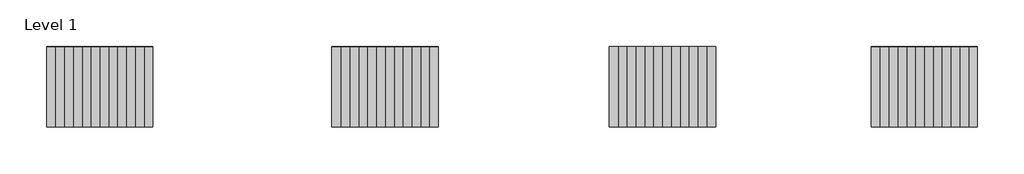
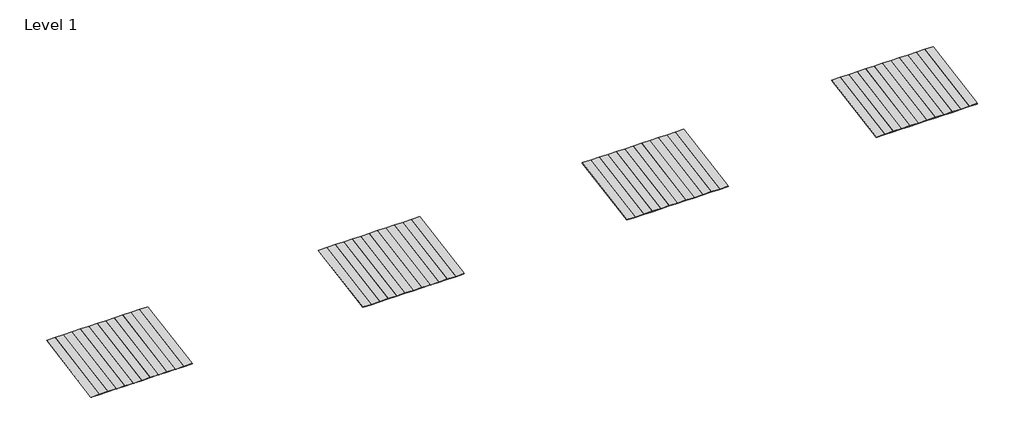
# One storey: 48 plates.
"""IFC4 building model written with IfcOpenShell, lengths in millimetres."""

from ifc_helpers import new_model, si_unit, origin, place, context, project, spatial, transform, mapped, element, save
from components import system_panel_feab0dc7, system_panel_77eb090d, system_panel_bf3a755d, system_panel_ab85e6cc

model = new_model("IFC4")

# Units and contexts
model_context = context("Model", 3, world=origin())
ifc_project = project(units=[si_unit("LENGTHUNIT", "METRE", prefix="MILLI")], contexts=[model_context])

# Site, building, storey
site = spatial("IfcSite", under=ifc_project)
building = spatial("IfcBuilding", under=site)
storey = spatial("IfcBuildingStorey", under=building, Name="Level 1", Elevation=4000.0)

# Plates
placement = place(None, origin())
system_panel_shape = system_panel_feab0dc7(model_context)
element("IfcPlate", 1, ObjectType="System Panel : MetecnoSpan_40mm_Vertical_Plain_Surfmist", at=placement, inside=storey, context=model_context, shape_type="MappedRepresentation", body=[
    mapped(system_panel_shape, transform((-20530.7129304, -3930.7641433, 0.0), x_axis=(1.0, 0.0, 0.0), y_axis=(0.0, 0.17364817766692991, -0.9848077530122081), z_axis=(0.0, 0.9848077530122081, 0.17364817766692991))),
])
element("IfcPlate", 2, ObjectType="System Panel : MetecnoSpan_40mm_Vertical_Plain_Surfmist", at=placement, inside=storey, context=model_context, shape_type="MappedRepresentation", body=[
    mapped(system_panel_shape, transform((-19530.7129304, -3930.7641433, 0.0), x_axis=(1.0, 0.0, 0.0), y_axis=(0.0, 0.17364817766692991, -0.9848077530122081), z_axis=(0.0, 0.9848077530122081, 0.17364817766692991))),
])
element("IfcPlate", 3, ObjectType="System Panel : MetecnoSpan_40mm_Vertical_Plain_Surfmist", at=placement, inside=storey, context=model_context, shape_type="MappedRepresentation", body=[
    mapped(system_panel_shape, transform((-18530.7129304, -3930.7641433, 0.0), x_axis=(1.0, 0.0, 0.0), y_axis=(0.0, 0.17364817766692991, -0.9848077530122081), z_axis=(0.0, 0.9848077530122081, 0.17364817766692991))),
])
element("IfcPlate", 4, ObjectType="System Panel : MetecnoSpan_40mm_Vertical_Plain_Surfmist", at=placement, inside=storey, context=model_context, shape_type="MappedRepresentation", body=[
    mapped(system_panel_shape, transform((-17530.7129304, -3930.7641433, 0.0), x_axis=(1.0, 0.0, 0.0), y_axis=(0.0, 0.17364817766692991, -0.9848077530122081), z_axis=(0.0, 0.9848077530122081, 0.17364817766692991))),
])
element("IfcPlate", 5, ObjectType="System Panel : MetecnoSpan_40mm_Vertical_Plain_Surfmist", at=placement, inside=storey, context=model_context, shape_type="MappedRepresentation", body=[
    mapped(system_panel_shape, transform((-16530.7129304, -3930.7641433, 0.0), x_axis=(1.0, 0.0, 0.0), y_axis=(0.0, 0.17364817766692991, -0.9848077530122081), z_axis=(0.0, 0.9848077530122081, 0.17364817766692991))),
])
element("IfcPlate", 6, ObjectType="System Panel : MetecnoSpan_40mm_Vertical_Plain_Surfmist", at=placement, inside=storey, context=model_context, shape_type="MappedRepresentation", body=[
    mapped(system_panel_shape, transform((-15530.7129304, -3930.7641433, 0.0), x_axis=(1.0, 0.0, 0.0), y_axis=(0.0, 0.17364817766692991, -0.9848077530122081), z_axis=(0.0, 0.9848077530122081, 0.17364817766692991))),
])
element("IfcPlate", 7, ObjectType="System Panel : MetecnoSpan_40mm_Vertical_Plain_Surfmist", at=placement, inside=storey, context=model_context, shape_type="MappedRepresentation", body=[
    mapped(system_panel_shape, transform((-14530.7129304, -3930.7641433, 0.0), x_axis=(1.0, 0.0, 0.0), y_axis=(0.0, 0.17364817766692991, -0.9848077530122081), z_axis=(0.0, 0.9848077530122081, 0.17364817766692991))),
])
element("IfcPlate", 8, ObjectType="System Panel : MetecnoSpan_40mm_Vertical_Plain_Surfmist", at=placement, inside=storey, context=model_context, shape_type="MappedRepresentation", body=[
    mapped(system_panel_shape, transform((-13530.7129304, -3930.7641433, 0.0), x_axis=(1.0, 0.0, 0.0), y_axis=(0.0, 0.17364817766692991, -0.9848077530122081), z_axis=(0.0, 0.9848077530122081, 0.17364817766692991))),
])
element("IfcPlate", 9, ObjectType="System Panel : MetecnoSpan_40mm_Vertical_Plain_Surfmist", at=placement, inside=storey, context=model_context, shape_type="MappedRepresentation", body=[
    mapped(system_panel_shape, transform((-12530.7129304, -3930.7641433, 0.0), x_axis=(1.0, 0.0, 0.0), y_axis=(0.0, 0.17364817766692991, -0.9848077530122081), z_axis=(0.0, 0.9848077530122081, 0.17364817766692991))),
])
element("IfcPlate", 10, ObjectType="System Panel : MetecnoSpan_40mm_Vertical_Plain_Surfmist", at=placement, inside=storey, context=model_context, shape_type="MappedRepresentation", body=[
    mapped(system_panel_shape, transform((-11530.7129304, -3930.7641433, 0.0), x_axis=(1.0, 0.0, 0.0), y_axis=(0.0, 0.17364817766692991, -0.9848077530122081), z_axis=(0.0, 0.9848077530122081, 0.17364817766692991))),
])
element("IfcPlate", 11, ObjectType="System Panel : MetecnoSpan_40mm_Vertical_Plain_Surfmist", at=placement, inside=storey, context=model_context, shape_type="MappedRepresentation", body=[
    mapped(system_panel_shape, transform((-10530.7129304, -3930.7641433, 0.0), x_axis=(1.0, 0.0, 0.0), y_axis=(0.0, 0.17364817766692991, -0.9848077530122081), z_axis=(0.0, 0.9848077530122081, 0.17364817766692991))),
])
element("IfcPlate", 12, ObjectType="System Panel : MetecnoSpan_40mm_Vertical_Plain_Surfmist", at=placement, inside=storey, context=model_context, shape_type="MappedRepresentation", body=[
    mapped(system_panel_shape, transform((-9530.7129304, -3930.7641433, 0.0), x_axis=(1.0, 0.0, 0.0), y_axis=(0.0, 0.17364817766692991, -0.9848077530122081), z_axis=(0.0, 0.9848077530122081, 0.17364817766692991))),
])
system_panel_2_shape = system_panel_77eb090d(model_context)
element("IfcPlate", 13, ObjectType="System Panel : MetecnoSpan_60mm_Vertical_Plain_Surfmist", at=placement, inside=storey, context=model_context, shape_type="MappedRepresentation", body=[
    mapped(system_panel_2_shape, transform((11669.2870696, -3930.7641433, 0.0), x_axis=(1.0, 0.0, 0.0), y_axis=(0.0, 0.17364817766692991, -0.9848077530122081), z_axis=(0.0, 0.9848077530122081, 0.17364817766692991))),
])
element("IfcPlate", 14, ObjectType="System Panel : MetecnoSpan_60mm_Vertical_Plain_Surfmist", at=placement, inside=storey, context=model_context, shape_type="MappedRepresentation", body=[
    mapped(system_panel_2_shape, transform((12669.2870696, -3930.7641433, 0.0), x_axis=(1.0, 0.0, 0.0), y_axis=(0.0, 0.17364817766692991, -0.9848077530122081), z_axis=(0.0, 0.9848077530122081, 0.17364817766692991))),
])
element("IfcPlate", 15, ObjectType="System Panel : MetecnoSpan_60mm_Vertical_Plain_Surfmist", at=placement, inside=storey, context=model_context, shape_type="MappedRepresentation", body=[
    mapped(system_panel_2_shape, transform((13669.2870696, -3930.7641433, 0.0), x_axis=(1.0, 0.0, 0.0), y_axis=(0.0, 0.17364817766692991, -0.9848077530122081), z_axis=(0.0, 0.9848077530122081, 0.17364817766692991))),
])
element("IfcPlate", 16, ObjectType="System Panel : MetecnoSpan_60mm_Vertical_Plain_Surfmist", at=placement, inside=storey, context=model_context, shape_type="MappedRepresentation", body=[
    mapped(system_panel_2_shape, transform((14669.2870696, -3930.7641433, 0.0), x_axis=(1.0, 0.0, 0.0), y_axis=(0.0, 0.17364817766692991, -0.9848077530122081), z_axis=(0.0, 0.9848077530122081, 0.17364817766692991))),
])
element("IfcPlate", 17, ObjectType="System Panel : MetecnoSpan_60mm_Vertical_Plain_Surfmist", at=placement, inside=storey, context=model_context, shape_type="MappedRepresentation", body=[
    mapped(system_panel_2_shape, transform((15669.2870696, -3930.7641433, 0.0), x_axis=(1.0, 0.0, 0.0), y_axis=(0.0, 0.17364817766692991, -0.9848077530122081), z_axis=(0.0, 0.9848077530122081, 0.17364817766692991))),
])
element("IfcPlate", 18, ObjectType="System Panel : MetecnoSpan_60mm_Vertical_Plain_Surfmist", at=placement, inside=storey, context=model_context, shape_type="MappedRepresentation", body=[
    mapped(system_panel_2_shape, transform((16669.2870696, -3930.7641433, 0.0), x_axis=(1.0, 0.0, 0.0), y_axis=(0.0, 0.17364817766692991, -0.9848077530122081), z_axis=(0.0, 0.9848077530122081, 0.17364817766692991))),
])
element("IfcPlate", 19, ObjectType="System Panel : MetecnoSpan_60mm_Vertical_Plain_Surfmist", at=placement, inside=storey, context=model_context, shape_type="MappedRepresentation", body=[
    mapped(system_panel_2_shape, transform((17669.2870696, -3930.7641433, 0.0), x_axis=(1.0, 0.0, 0.0), y_axis=(0.0, 0.17364817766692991, -0.9848077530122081), z_axis=(0.0, 0.9848077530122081, 0.17364817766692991))),
])
element("IfcPlate", 20, ObjectType="System Panel : MetecnoSpan_60mm_Vertical_Plain_Surfmist", at=placement, inside=storey, context=model_context, shape_type="MappedRepresentation", body=[
    mapped(system_panel_2_shape, transform((18669.2870696, -3930.7641433, 0.0), x_axis=(1.0, 0.0, 0.0), y_axis=(0.0, 0.17364817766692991, -0.9848077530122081), z_axis=(0.0, 0.9848077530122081, 0.17364817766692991))),
])
element("IfcPlate", 21, ObjectType="System Panel : MetecnoSpan_60mm_Vertical_Plain_Surfmist", at=placement, inside=storey, context=model_context, shape_type="MappedRepresentation", body=[
    mapped(system_panel_2_shape, transform((19669.2870696, -3930.7641433, 0.0), x_axis=(1.0, 0.0, 0.0), y_axis=(0.0, 0.17364817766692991, -0.9848077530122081), z_axis=(0.0, 0.9848077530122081, 0.17364817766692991))),
])
element("IfcPlate", 22, ObjectType="System Panel : MetecnoSpan_60mm_Vertical_Plain_Surfmist", at=placement, inside=storey, context=model_context, shape_type="MappedRepresentation", body=[
    mapped(system_panel_2_shape, transform((20669.2870696, -3930.7641433, 0.0), x_axis=(1.0, 0.0, 0.0), y_axis=(0.0, 0.17364817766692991, -0.9848077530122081), z_axis=(0.0, 0.9848077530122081, 0.17364817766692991))),
])
element("IfcPlate", 23, ObjectType="System Panel : MetecnoSpan_60mm_Vertical_Plain_Surfmist", at=placement, inside=storey, context=model_context, shape_type="MappedRepresentation", body=[
    mapped(system_panel_2_shape, transform((21669.2870696, -3930.7641433, 0.0), x_axis=(1.0, 0.0, 0.0), y_axis=(0.0, 0.17364817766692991, -0.9848077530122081), z_axis=(0.0, 0.9848077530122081, 0.17364817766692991))),
])
element("IfcPlate", 24, ObjectType="System Panel : MetecnoSpan_60mm_Vertical_Plain_Surfmist", at=placement, inside=storey, context=model_context, shape_type="MappedRepresentation", body=[
    mapped(system_panel_2_shape, transform((22669.2870696, -3930.7641433, 0.0), x_axis=(1.0, 0.0, 0.0), y_axis=(0.0, 0.17364817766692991, -0.9848077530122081), z_axis=(0.0, 0.9848077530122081, 0.17364817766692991))),
])
system_panel_3_shape = system_panel_bf3a755d(model_context)
element("IfcPlate", 25, ObjectType="System Panel : MetecnoSpan_80mm_Vertical_Plain_Surfmist", at=placement, inside=storey, context=model_context, shape_type="MappedRepresentation", body=[
    mapped(system_panel_3_shape, transform((42943.9173327, -3941.183034, 0.0), x_axis=(1.0, 0.0, 0.0), y_axis=(0.0, 0.17364817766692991, -0.9848077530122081), z_axis=(0.0, 0.9848077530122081, 0.17364817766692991))),
])
element("IfcPlate", 26, ObjectType="System Panel : MetecnoSpan_80mm_Vertical_Plain_Surfmist", at=placement, inside=storey, context=model_context, shape_type="MappedRepresentation", body=[
    mapped(system_panel_3_shape, transform((43943.9173327, -3941.183034, 0.0), x_axis=(1.0, 0.0, 0.0), y_axis=(0.0, 0.17364817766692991, -0.9848077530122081), z_axis=(0.0, 0.9848077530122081, 0.17364817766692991))),
])
element("IfcPlate", 27, ObjectType="System Panel : MetecnoSpan_80mm_Vertical_Plain_Surfmist", at=placement, inside=storey, context=model_context, shape_type="MappedRepresentation", body=[
    mapped(system_panel_3_shape, transform((44943.9173327, -3941.183034, 0.0), x_axis=(1.0, 0.0, 0.0), y_axis=(0.0, 0.17364817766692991, -0.9848077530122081), z_axis=(0.0, 0.9848077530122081, 0.17364817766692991))),
])
element("IfcPlate", 28, ObjectType="System Panel : MetecnoSpan_80mm_Vertical_Plain_Surfmist", at=placement, inside=storey, context=model_context, shape_type="MappedRepresentation", body=[
    mapped(system_panel_3_shape, transform((45943.9173327, -3941.183034, 0.0), x_axis=(1.0, 0.0, 0.0), y_axis=(0.0, 0.17364817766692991, -0.9848077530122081), z_axis=(0.0, 0.9848077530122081, 0.17364817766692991))),
])
element("IfcPlate", 29, ObjectType="System Panel : MetecnoSpan_80mm_Vertical_Plain_Surfmist", at=placement, inside=storey, context=model_context, shape_type="MappedRepresentation", body=[
    mapped(system_panel_3_shape, transform((46943.9173327, -3941.183034, 0.0), x_axis=(1.0, 0.0, 0.0), y_axis=(0.0, 0.17364817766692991, -0.9848077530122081), z_axis=(0.0, 0.9848077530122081, 0.17364817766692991))),
])
element("IfcPlate", 30, ObjectType="System Panel : MetecnoSpan_80mm_Vertical_Plain_Surfmist", at=placement, inside=storey, context=model_context, shape_type="MappedRepresentation", body=[
    mapped(system_panel_3_shape, transform((47943.9173327, -3941.183034, 0.0), x_axis=(1.0, 0.0, 0.0), y_axis=(0.0, 0.17364817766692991, -0.9848077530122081), z_axis=(0.0, 0.9848077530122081, 0.17364817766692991))),
])
element("IfcPlate", 31, ObjectType="System Panel : MetecnoSpan_80mm_Vertical_Plain_Surfmist", at=placement, inside=storey, context=model_context, shape_type="MappedRepresentation", body=[
    mapped(system_panel_3_shape, transform((48943.9173327, -3941.183034, 0.0), x_axis=(1.0, 0.0, 0.0), y_axis=(0.0, 0.17364817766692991, -0.9848077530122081), z_axis=(0.0, 0.9848077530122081, 0.17364817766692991))),
])
element("IfcPlate", 32, ObjectType="System Panel : MetecnoSpan_80mm_Vertical_Plain_Surfmist", at=placement, inside=storey, context=model_context, shape_type="MappedRepresentation", body=[
    mapped(system_panel_3_shape, transform((49943.9173327, -3941.183034, 0.0), x_axis=(1.0, 0.0, 0.0), y_axis=(0.0, 0.17364817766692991, -0.9848077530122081), z_axis=(0.0, 0.9848077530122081, 0.17364817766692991))),
])
element("IfcPlate", 33, ObjectType="System Panel : MetecnoSpan_80mm_Vertical_Plain_Surfmist", at=placement, inside=storey, context=model_context, shape_type="MappedRepresentation", body=[
    mapped(system_panel_3_shape, transform((50943.9173327, -3941.183034, 0.0), x_axis=(1.0, 0.0, 0.0), y_axis=(0.0, 0.17364817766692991, -0.9848077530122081), z_axis=(0.0, 0.9848077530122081, 0.17364817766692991))),
])
element("IfcPlate", 34, ObjectType="System Panel : MetecnoSpan_80mm_Vertical_Plain_Surfmist", at=placement, inside=storey, context=model_context, shape_type="MappedRepresentation", body=[
    mapped(system_panel_3_shape, transform((51943.9173327, -3941.183034, 0.0), x_axis=(1.0, 0.0, 0.0), y_axis=(0.0, 0.17364817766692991, -0.9848077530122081), z_axis=(0.0, 0.9848077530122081, 0.17364817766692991))),
])
element("IfcPlate", 35, ObjectType="System Panel : MetecnoSpan_80mm_Vertical_Plain_Surfmist", at=placement, inside=storey, context=model_context, shape_type="MappedRepresentation", body=[
    mapped(system_panel_3_shape, transform((52943.9173327, -3941.183034, 0.0), x_axis=(1.0, 0.0, 0.0), y_axis=(0.0, 0.17364817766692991, -0.9848077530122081), z_axis=(0.0, 0.9848077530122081, 0.17364817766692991))),
])
element("IfcPlate", 36, ObjectType="System Panel : MetecnoSpan_80mm_Vertical_Plain_Surfmist", at=placement, inside=storey, context=model_context, shape_type="MappedRepresentation", body=[
    mapped(system_panel_3_shape, transform((53943.9173327, -3941.183034, 0.0), x_axis=(1.0, 0.0, 0.0), y_axis=(0.0, 0.17364817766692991, -0.9848077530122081), z_axis=(0.0, 0.9848077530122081, 0.17364817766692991))),
])
system_panel_4_shape = system_panel_ab85e6cc(model_context)
element("IfcPlate", 37, ObjectType="System Panel : MetecnoSpan_100mm_Vertical_Plain_Surfmist", at=placement, inside=storey, context=model_context, shape_type="MappedRepresentation", body=[
    mapped(system_panel_4_shape, transform((72493.0607167, -3923.8182162, 0.0), x_axis=(1.0, 0.0, 0.0), y_axis=(0.0, 0.17364817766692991, -0.9848077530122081), z_axis=(0.0, 0.9848077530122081, 0.17364817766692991))),
])
element("IfcPlate", 38, ObjectType="System Panel : MetecnoSpan_100mm_Vertical_Plain_Surfmist", at=placement, inside=storey, context=model_context, shape_type="MappedRepresentation", body=[
    mapped(system_panel_4_shape, transform((73493.0607167, -3923.8182162, 0.0), x_axis=(1.0, 0.0, 0.0), y_axis=(0.0, 0.17364817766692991, -0.9848077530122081), z_axis=(0.0, 0.9848077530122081, 0.17364817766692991))),
])
element("IfcPlate", 39, ObjectType="System Panel : MetecnoSpan_100mm_Vertical_Plain_Surfmist", at=placement, inside=storey, context=model_context, shape_type="MappedRepresentation", body=[
    mapped(system_panel_4_shape, transform((74493.0607167, -3923.8182162, 0.0), x_axis=(1.0, 0.0, 0.0), y_axis=(0.0, 0.17364817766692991, -0.9848077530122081), z_axis=(0.0, 0.9848077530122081, 0.17364817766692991))),
])
element("IfcPlate", 40, ObjectType="System Panel : MetecnoSpan_100mm_Vertical_Plain_Surfmist", at=placement, inside=storey, context=model_context, shape_type="MappedRepresentation", body=[
    mapped(system_panel_4_shape, transform((75493.0607167, -3923.8182162, 0.0), x_axis=(1.0, 0.0, 0.0), y_axis=(0.0, 0.17364817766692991, -0.9848077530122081), z_axis=(0.0, 0.9848077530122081, 0.17364817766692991))),
])
element("IfcPlate", 41, ObjectType="System Panel : MetecnoSpan_100mm_Vertical_Plain_Surfmist", at=placement, inside=storey, context=model_context, shape_type="MappedRepresentation", body=[
    mapped(system_panel_4_shape, transform((76493.0607167, -3923.8182162, 0.0), x_axis=(1.0, 0.0, 0.0), y_axis=(0.0, 0.17364817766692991, -0.9848077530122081), z_axis=(0.0, 0.9848077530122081, 0.17364817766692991))),
])
element("IfcPlate", 42, ObjectType="System Panel : MetecnoSpan_100mm_Vertical_Plain_Surfmist", at=placement, inside=storey, context=model_context, shape_type="MappedRepresentation", body=[
    mapped(system_panel_4_shape, transform((77493.0607167, -3923.8182162, 0.0), x_axis=(1.0, 0.0, 0.0), y_axis=(0.0, 0.17364817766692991, -0.9848077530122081), z_axis=(0.0, 0.9848077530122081, 0.17364817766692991))),
])
element("IfcPlate", 43, ObjectType="System Panel : MetecnoSpan_100mm_Vertical_Plain_Surfmist", at=placement, inside=storey, context=model_context, shape_type="MappedRepresentation", body=[
    mapped(system_panel_4_shape, transform((78493.0607167, -3923.8182162, 0.0), x_axis=(1.0, 0.0, 0.0), y_axis=(0.0, 0.17364817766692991, -0.9848077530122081), z_axis=(0.0, 0.9848077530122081, 0.17364817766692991))),
])
element("IfcPlate", 44, ObjectType="System Panel : MetecnoSpan_100mm_Vertical_Plain_Surfmist", at=placement, inside=storey, context=model_context, shape_type="MappedRepresentation", body=[
    mapped(system_panel_4_shape, transform((79493.0607167, -3923.8182162, 0.0), x_axis=(1.0, 0.0, 0.0), y_axis=(0.0, 0.17364817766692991, -0.9848077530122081), z_axis=(0.0, 0.9848077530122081, 0.17364817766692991))),
])
element("IfcPlate", 45, ObjectType="System Panel : MetecnoSpan_100mm_Vertical_Plain_Surfmist", at=placement, inside=storey, context=model_context, shape_type="MappedRepresentation", body=[
    mapped(system_panel_4_shape, transform((80493.0607167, -3923.8182162, 0.0), x_axis=(1.0, 0.0, 0.0), y_axis=(0.0, 0.17364817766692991, -0.9848077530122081), z_axis=(0.0, 0.9848077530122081, 0.17364817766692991))),
])
element("IfcPlate", 46, ObjectType="System Panel : MetecnoSpan_100mm_Vertical_Plain_Surfmist", at=placement, inside=storey, context=model_context, shape_type="MappedRepresentation", body=[
    mapped(system_panel_4_shape, transform((81493.0607167, -3923.8182162, 0.0), x_axis=(1.0, 0.0, 0.0), y_axis=(0.0, 0.17364817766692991, -0.9848077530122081), z_axis=(0.0, 0.9848077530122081, 0.17364817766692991))),
])
element("IfcPlate", 47, ObjectType="System Panel : MetecnoSpan_100mm_Vertical_Plain_Surfmist", at=placement, inside=storey, context=model_context, shape_type="MappedRepresentation", body=[
    mapped(system_panel_4_shape, transform((82493.0607167, -3923.8182162, 0.0), x_axis=(1.0, 0.0, 0.0), y_axis=(0.0, 0.17364817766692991, -0.9848077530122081), z_axis=(0.0, 0.9848077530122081, 0.17364817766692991))),
])
element("IfcPlate", 48, ObjectType="System Panel : MetecnoSpan_100mm_Vertical_Plain_Surfmist", at=placement, inside=storey, context=model_context, shape_type="MappedRepresentation", body=[
    mapped(system_panel_4_shape, transform((83493.0607167, -3923.8182162, 0.0), x_axis=(1.0, 0.0, 0.0), y_axis=(0.0, 0.17364817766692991, -0.9848077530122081), z_axis=(0.0, 0.9848077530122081, 0.17364817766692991))),
])

save(model, "model.ifc")
